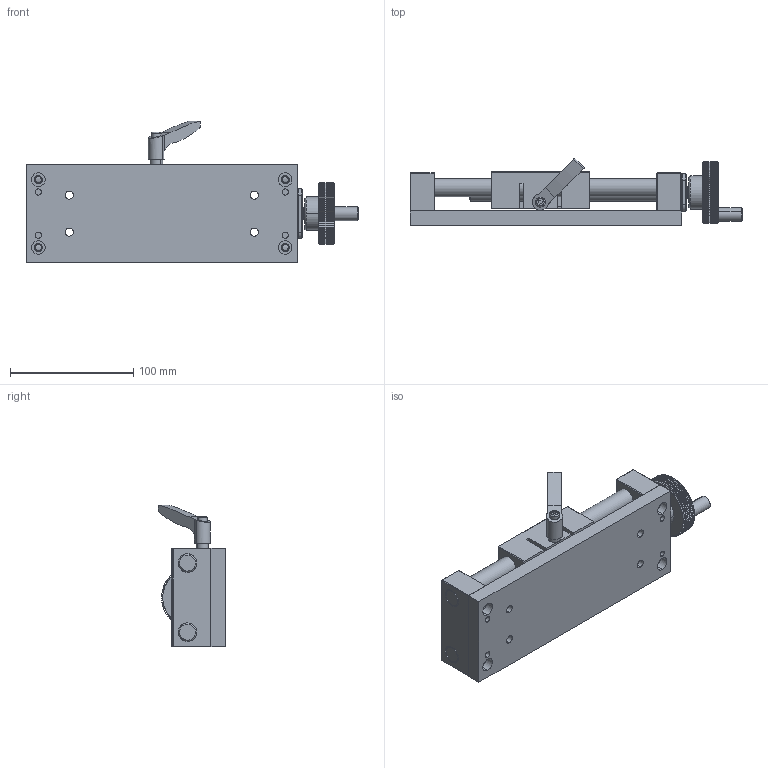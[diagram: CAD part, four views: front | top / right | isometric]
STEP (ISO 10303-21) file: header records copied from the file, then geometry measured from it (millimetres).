
FILE_DESCRIPTION (( 'STEP AP203' ), '1' );
FILE_NAME ('TCD-XKST100 进给丝杠式简易滑台.STEP', '2019-12-14T02:37:35', ( 'User' ), ( 'china' ), 'SwSTEP 2.0', 'SolidWorks 2016', '' );
FILE_SCHEMA (( 'CONFIG_CONTROL_DESIGN' ));
Length unit declared in the file: millimetre
Products named in the file (16): 嘐隅參忒 CLDM6-20-B; TCD-XKST-005 ヶ盓傅釱; TCD-XKST-010 肣蹟譫; TCD-XKST-006 賑釱; 儕躇蹟譫M10x1.0; TCD-XKST-007 粣創揤裔; TCD-XKST100 进给丝杠式简易滑台; TCD-XKST-008 唅聽; TCD-XKST-009 苤參忒; TCD-XKST100-001 賑怢菁釱; 旮僱⑩粣創 B6000ZZ; TCD-XKST100-002 絳砃粣; _CLDM6-20-B_1; TCD-XKST100-003 蹟裝; _CLDM6-8-B_2; TCD-XKST-004 綴盓傅釱
Assembly tree (16 placements, depth 3):
  TCD-XKST100 进给丝杠式简易滑台
    TCD-XKST100-001 賑怢菁釱
    TCD-XKST100-002 絳砃粣  x2
    TCD-XKST100-003 蹟裝
    TCD-XKST-004 綴盓傅釱
    TCD-XKST-005 ヶ盓傅釱
    TCD-XKST-006 賑釱
    TCD-XKST-007 粣創揤裔
    TCD-XKST-008 唅聽
    TCD-XKST-009 苤參忒
    旮僱⑩粣創 B6000ZZ
    嘐隅參忒 CLDM6-20-B
      _CLDM6-20-B_1
      _CLDM6-8-B_2
    TCD-XKST-010 肣蹟譫
    儕躇蹟譫M10x1.0
Bounding box: 269 x 54.71 x 115 mm (x, y, z)
Volume: 541106.2 mm3; surface area: 157070.7 mm2
Topology: 15 solids, 15 shells, 928 faces, 2168 edges, 1272 vertices
Faces by surface type: plane 361, cylinder 309, cone 248, torus 8, bspline 2
Entity records: 28603 total; most frequent: CARTESIAN_POINT 6208, DIRECTION 4394, ORIENTED_EDGE 4236, EDGE_CURVE 2118, AXIS2_PLACEMENT_3D 1766, VERTEX_POINT 1256, EDGE_LOOP 1044, ADVANCED_FACE 914
